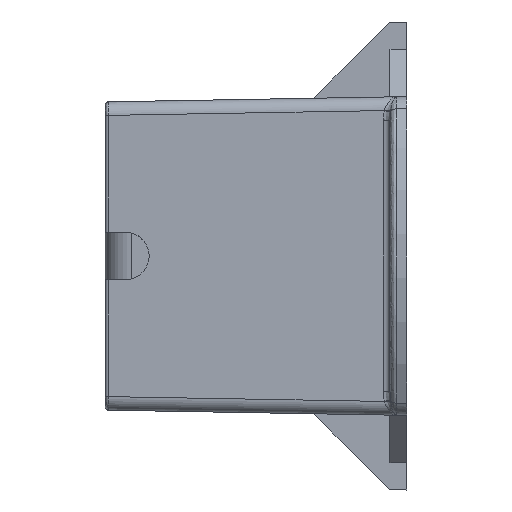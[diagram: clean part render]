
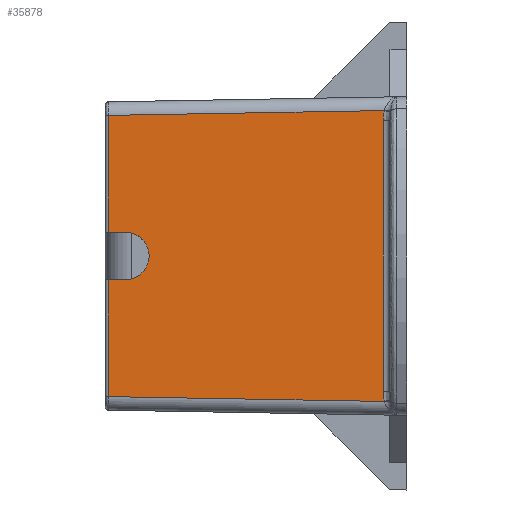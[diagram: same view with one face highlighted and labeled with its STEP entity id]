
A CAD part, left-side view. The second image highlights one B-rep face of the part: STEP entity #35878.
In plain terms, the highlighted planar face has unit normal (-1, 0.018, 0).
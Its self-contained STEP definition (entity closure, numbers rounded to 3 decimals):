
#3217=ELLIPSE('',#37829,3.341,1.298);
#3222=ELLIPSE('',#37876,3.501,3.5);
#3288=B_SPLINE_CURVE_WITH_KNOTS('',3,(#49637,#49638,#49639,#49640,#49641),
 .UNSPECIFIED.,.F.,.U.,(4,1,4),(0.,0.5,1.),.UNSPECIFIED.);
#3458=VECTOR('',#40777,1.);
#3487=VECTOR('',#40896,1.);
#3496=VECTOR('',#40925,1.);
#3502=VECTOR('',#40939,1.);
#3503=VECTOR('',#40940,1.);
#3504=VECTOR('',#40941,1.);
#3505=VECTOR('',#40942,1.);
#7768=LINE('',#49285,#3458);
#7797=LINE('',#49516,#3487);
#7806=LINE('',#49618,#3496);
#7812=LINE('',#49643,#3502);
#7813=LINE('',#49644,#3503);
#7814=LINE('',#49646,#3504);
#7815=LINE('',#49648,#3505);
#12439=VERTEX_POINT('',#49212);
#12440=VERTEX_POINT('',#49213);
#12446=VERTEX_POINT('',#49286);
#12478=VERTEX_POINT('',#49491);
#12479=VERTEX_POINT('',#49492);
#12485=VERTEX_POINT('',#49515);
#12494=VERTEX_POINT('',#49619);
#12502=VERTEX_POINT('',#49642);
#12503=VERTEX_POINT('',#49645);
#12504=VERTEX_POINT('',#49647);
#16458=EDGE_CURVE('',#12439,#12440,#3217,.T.);
#16465=EDGE_CURVE('',#12439,#12446,#7768,.T.);
#16518=EDGE_CURVE('',#12478,#12479,#3222,.T.);
#16526=EDGE_CURVE('',#12440,#12485,#7797,.T.);
#16542=EDGE_CURVE('',#12494,#12479,#7806,.T.);
#16551=EDGE_CURVE('',#12502,#12446,#3288,.T.);
#16552=EDGE_CURVE('',#12485,#12494,#7812,.T.);
#16553=EDGE_CURVE('',#12478,#12503,#7813,.T.);
#16554=EDGE_CURVE('',#12503,#12504,#7814,.T.);
#16555=EDGE_CURVE('',#12504,#12502,#7815,.T.);
#21821=ORIENTED_EDGE('',*,*,#16551,.T.);
#21822=ORIENTED_EDGE('',*,*,#16465,.F.);
#21823=ORIENTED_EDGE('',*,*,#16458,.T.);
#21824=ORIENTED_EDGE('',*,*,#16526,.T.);
#21825=ORIENTED_EDGE('',*,*,#16552,.T.);
#21826=ORIENTED_EDGE('',*,*,#16542,.T.);
#21827=ORIENTED_EDGE('',*,*,#16518,.F.);
#21828=ORIENTED_EDGE('',*,*,#16553,.T.);
#21829=ORIENTED_EDGE('',*,*,#16554,.T.);
#21830=ORIENTED_EDGE('',*,*,#16555,.T.);
#31755=EDGE_LOOP('',(#21821,#21822,#21823,#21824,#21825,#21826,#21827,#21828,
#21829,#21830));
#33824=FACE_BOUND('',#31755,.T.);
#35878=ADVANCED_FACE('',(#33824),#61518,.T.);
#37829=AXIS2_PLACEMENT_3D('',#49211,#40767,#40768);
#37876=AXIS2_PLACEMENT_3D('',#49490,#40882,#40883);
#37897=AXIS2_PLACEMENT_3D('',#49636,#40938,$);
#40767=DIRECTION('',(1.,-0.016,0.));
#40768=DIRECTION('',(-0.001,-0.055,-3.341));
#40777=DIRECTION('',(0.,0.,-1.));
#40882=DIRECTION('',(-1.,0.017,0.));
#40883=DIRECTION('',(-0.061,-3.5,0.));
#40896=DIRECTION('',(0.017,1.,-0.017));
#40925=DIRECTION('',(-0.017,-1.,0.));
#40938=DIRECTION('',(-1.,0.017,0.));
#40939=DIRECTION('',(0.,0.,-1.));
#40940=DIRECTION('',(0.017,1.,0.));
#40941=DIRECTION('',(0.,0.,-1.));
#40942=DIRECTION('',(-0.017,-1.,-0.017));
#49211=CARTESIAN_POINT('',(-59.96,2.184,19.803));
#49212=CARTESIAN_POINT('',(-59.939,3.483,19.919));
#49213=CARTESIAN_POINT('',(-59.942,3.338,21.442));
#49285=CARTESIAN_POINT('',(-59.939,3.483,19.919));
#49286=CARTESIAN_POINT('',(-59.939,3.483,-19.919));
#49490=CARTESIAN_POINT('',(-59.276,41.5,0.));
#49491=CARTESIAN_POINT('',(-59.276,41.5,-3.5));
#49492=CARTESIAN_POINT('',(-59.276,41.5,3.5));
#49515=CARTESIAN_POINT('',(-59.232,44.009,20.732));
#49516=CARTESIAN_POINT('',(-59.942,3.338,21.442));
#49618=CARTESIAN_POINT('',(-59.232,44.009,3.5));
#49619=CARTESIAN_POINT('',(-59.232,44.009,3.5));
#49636=CARTESIAN_POINT('',(-59.587,23.673,0.));
#49637=CARTESIAN_POINT('',(-59.942,3.338,-21.442));
#49638=CARTESIAN_POINT('',(-59.941,3.386,-21.207));
#49639=CARTESIAN_POINT('',(-59.94,3.458,-20.717));
#49640=CARTESIAN_POINT('',(-59.939,3.483,-20.191));
#49641=CARTESIAN_POINT('',(-59.939,3.483,-19.919));
#49642=CARTESIAN_POINT('',(-59.942,3.338,-21.442));
#49643=CARTESIAN_POINT('',(-59.232,44.009,20.732));
#49644=CARTESIAN_POINT('',(-59.276,41.5,-3.5));
#49645=CARTESIAN_POINT('',(-59.232,44.009,-3.5));
#49646=CARTESIAN_POINT('',(-59.232,44.009,-3.5));
#49647=CARTESIAN_POINT('',(-59.232,44.009,-20.732));
#49648=CARTESIAN_POINT('',(-59.232,44.009,-20.732));
#61518=PLANE('',#37897);
